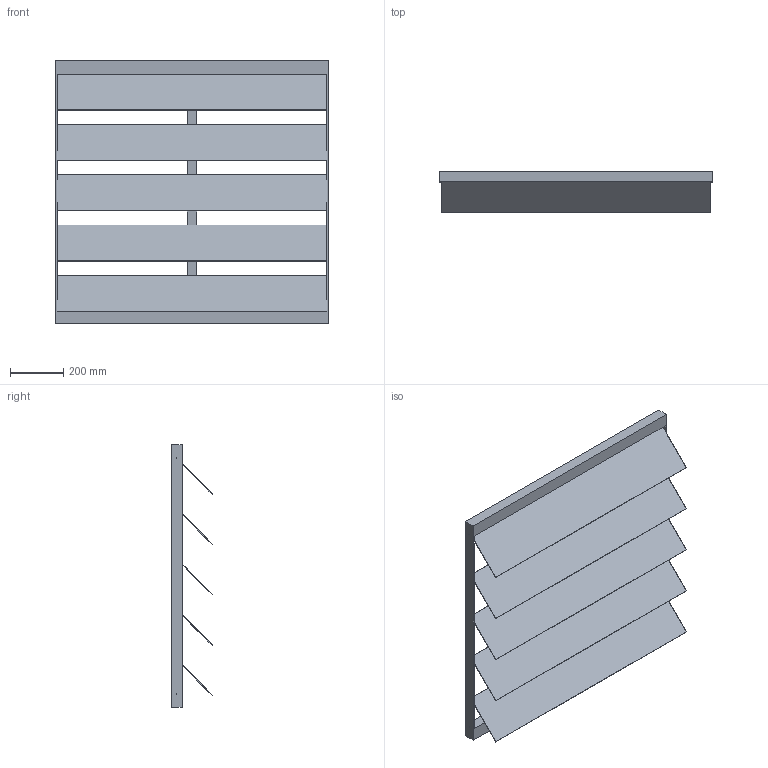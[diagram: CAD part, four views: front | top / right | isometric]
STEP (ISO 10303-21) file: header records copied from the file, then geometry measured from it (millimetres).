
FILE_DESCRIPTION(/* description */ (''),/* implementation_level */ '2;1');
FILE_NAME(/* name */ 'Z:\Output\VK_900-00841-001.stp',/* time_stamp */ '2017-09-29T10:20:39+02:00',/* author */ ('pareshmistry'),/* organization */ (''),/* preprocessor_version */ 'ST-DEVELOPER v16.5',/* originating_system */ 'Autodesk Inventor 2017',/* authorisation */ '');
FILE_SCHEMA (('AUTOMOTIVE_DESIGN { 1 0 10303 214 3 1 1 }'));
Length unit declared in the file: millimetre
Products named in the file (1): VK-1
Bounding box: 1026 x 153.64 x 985 mm (x, y, z)
Volume: 7116321.7 mm3; surface area: 2573460.9 mm2
Topology: 1 solids, 1 shells, 76 faces, 249 edges, 150 vertices
Faces by surface type: plane 68, cylinder 8
Full cylindrical faces by diameter (mm): 8 x4
Entity records: 2701 total; most frequent: ORIENTED_EDGE 494, CARTESIAN_POINT 468, DIRECTION 425, EDGE_CURVE 243, LINE 215, VECTOR 215, VERTEX_POINT 148, AXIS2_PLACEMENT_3D 105
